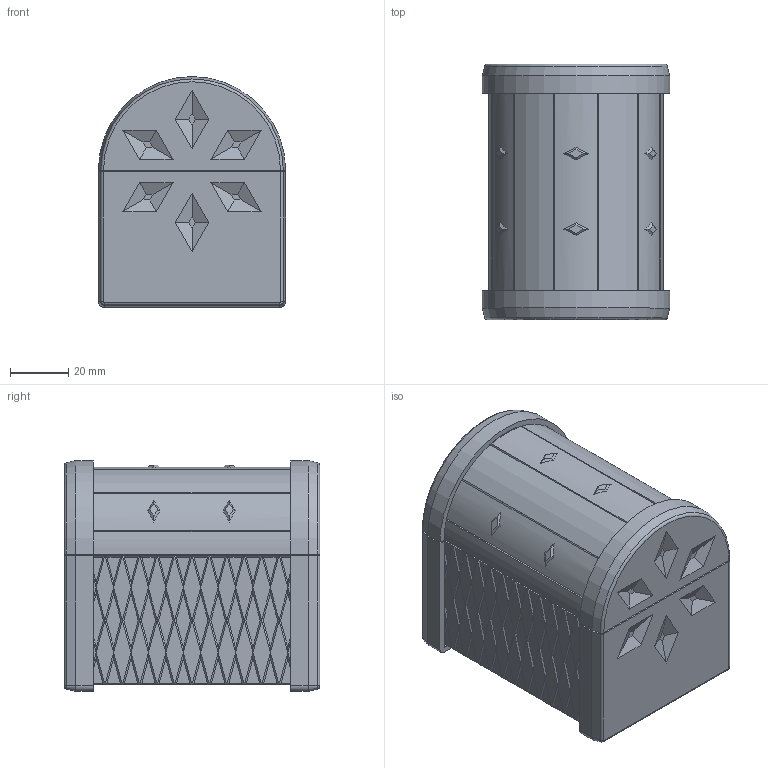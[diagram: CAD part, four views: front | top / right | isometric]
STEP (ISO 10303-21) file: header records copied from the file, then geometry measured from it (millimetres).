
FILE_DESCRIPTION(/* description */ (''),/* implementation_level */ '2;1');
FILE_NAME(/* name */ (''),/* time_stamp */ (''),/* author */ (''),/* organization */ (''),/* preprocessor_version */ 'ST-DEVELOPER v18.1',/* originating_system */ 'Autodesk Translation Framework v10.14.0.1471',/* authorisation */ '');
FILE_SCHEMA (('AUTOMOTIVE_DESIGN { 1 0 10303 214 3 1 1 }'));
Length unit declared in the file: millimetre
Products named in the file (1): Easy Print Treasure Chest Puzzle
Bounding box: 64.5 x 88 x 79.5 mm (x, y, z)
Volume: 186646.9 mm3; surface area: 99229.5 mm2
Topology: 10 solids, 10 shells, 1059 faces, 2557 edges, 1536 vertices
Faces by surface type: plane 954, cylinder 57, cone 38, bspline 8, torus 2
Full cylindrical faces by diameter (mm): 2 x3
Entity records: 30104 total; most frequent: CARTESIAN_POINT 5653, ORIENTED_EDGE 5104, DIRECTION 4781, EDGE_CURVE 2552, LINE 2293, VECTOR 2293, VERTEX_POINT 1536, AXIS2_PLACEMENT_3D 1244
